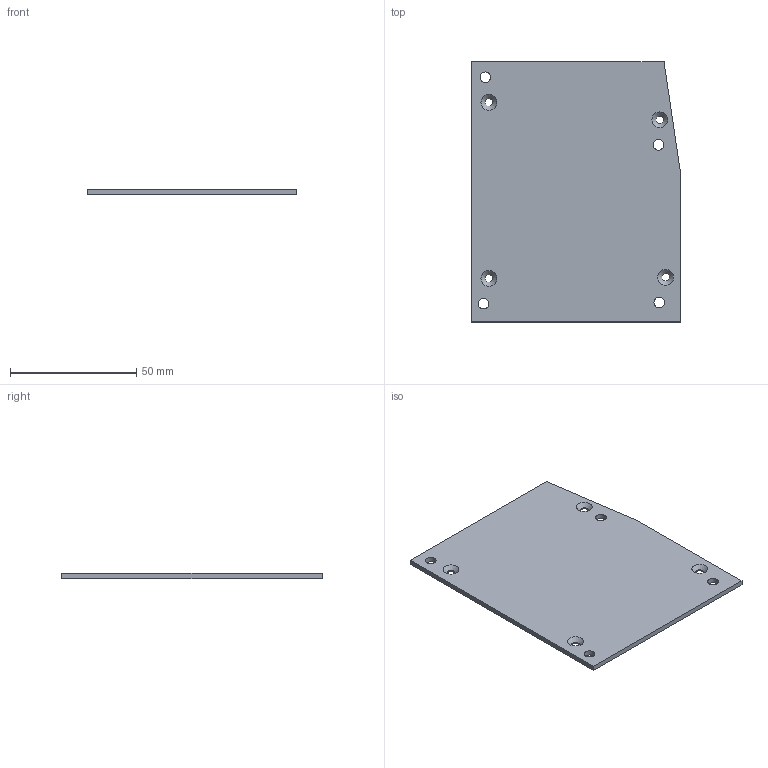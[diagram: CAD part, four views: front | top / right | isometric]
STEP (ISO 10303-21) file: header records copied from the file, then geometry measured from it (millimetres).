
FILE_DESCRIPTION(/* description */ (''),/* implementation_level */ '2;1');
FILE_NAME(/* name */ 'DED lid1.step',/* time_stamp */ '2024-10-31T18:14:20+02:00',/* author */ (''),/* organization */ (''),/* preprocessor_version */ 'ST-DEVELOPER v20',/* originating_system */ 'Autodesk Translation Framework v13.20.0.188',/* authorisation */ '');
FILE_SCHEMA (('AUTOMOTIVE_DESIGN { 1 0 10303 214 3 1 1 }'));
Length unit declared in the file: millimetre
Products named in the file (1): DED
Bounding box: 83 x 103 x 2 mm (x, y, z)
Volume: 16565.1 mm3; surface area: 17524.2 mm2
Topology: 1 solids, 1 shells, 19 faces, 47 edges, 30 vertices
Faces by surface type: cylinder 8, plane 7, cone 4
Full cylindrical faces by diameter (mm): 3.1 x4, 4.2 x4
Entity records: 623 total; most frequent: DIRECTION 107, CARTESIAN_POINT 97, ORIENTED_EDGE 94, EDGE_CURVE 47, AXIS2_PLACEMENT_3D 40, EDGE_LOOP 35, VERTEX_POINT 30, LINE 27
